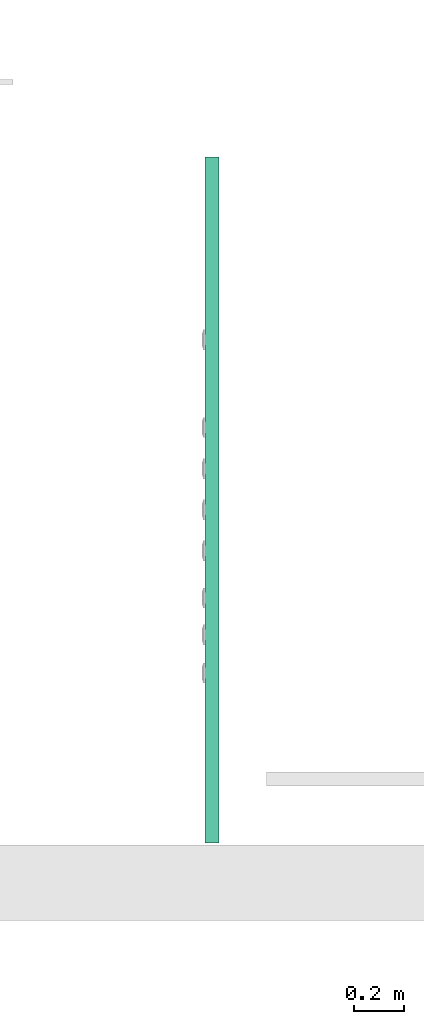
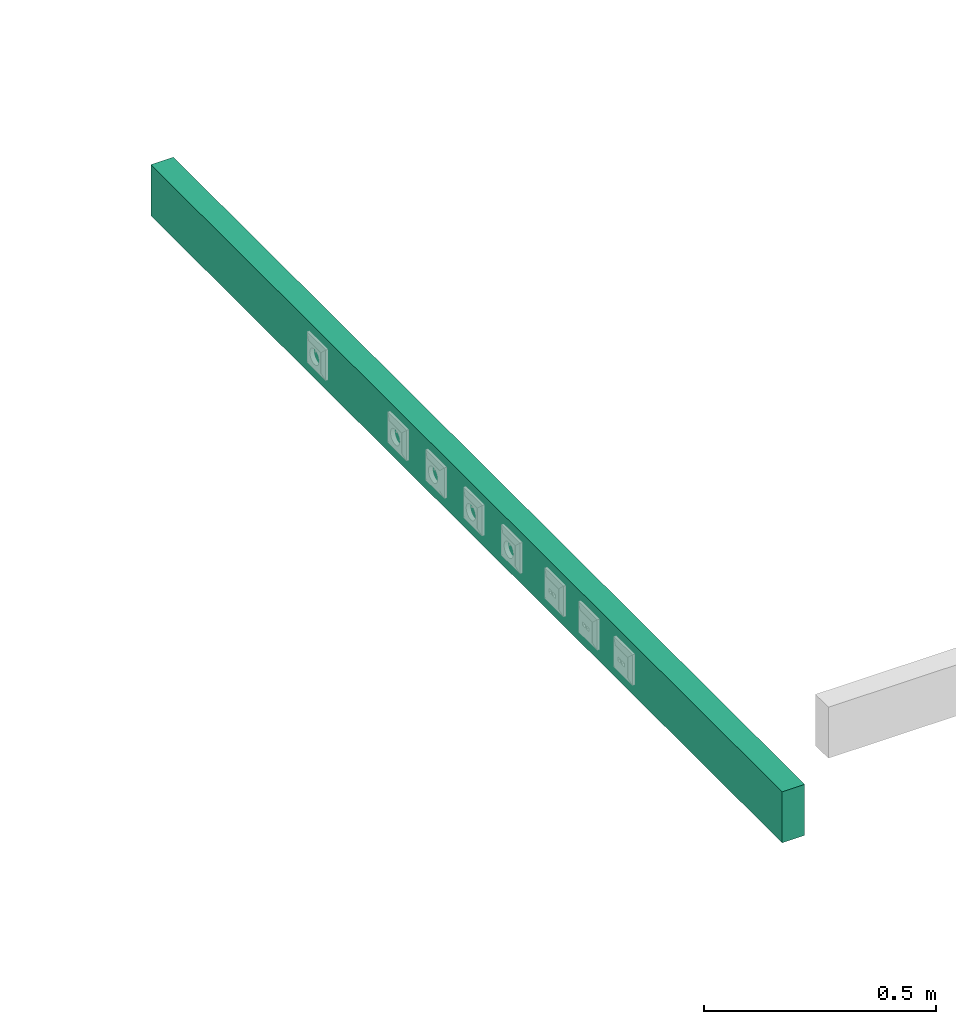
# One storey, part 8 of 166: 1 flow segment.
"""IFC2X3 building model written with IfcOpenShell, lengths in metres."""

from ifc_helpers import new_model, entity, si_unit, converted_unit, derived_unit, direction, frame, origin, origin_2d_with_axis, place, context, subcontext, project, spatial, rectangle, extrude, type_object, element, save


model = new_model("IFC2X3")

# Units and contexts
model_context = context("Model", 3, precision=1e-05, world=origin(), true_north=direction((6.12303176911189e-17, 1.0)))
body_context = subcontext(model_context, "Body", "Model", "MODEL_VIEW")
ifc_project = project(units=[si_unit("LENGTHUNIT", "METRE"), si_unit("AREAUNIT", "SQUARE_METRE"), si_unit("VOLUMEUNIT", "CUBIC_METRE"), converted_unit("PLANEANGLEUNIT", "DEGREE", entity("IfcRatioMeasure", 0.0174532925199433), si_unit("PLANEANGLEUNIT", "RADIAN"), dimensions=[0, 0, 0, 0, 0, 0, 0]), si_unit("MASSUNIT", "GRAM", prefix="KILO"), derived_unit("MASSDENSITYUNIT", [(si_unit("MASSUNIT", "GRAM", prefix="KILO"), 1), (si_unit("LENGTHUNIT", "METRE"), -3)]), si_unit("TIMEUNIT", "SECOND"), si_unit("FREQUENCYUNIT", "HERTZ"), si_unit("THERMODYNAMICTEMPERATUREUNIT", "DEGREE_CELSIUS"), derived_unit("THERMALTRANSMITTANCEUNIT", [(si_unit("MASSUNIT", "GRAM", prefix="KILO"), 1), (si_unit("THERMODYNAMICTEMPERATUREUNIT", "KELVIN"), -1), (si_unit("TIMEUNIT", "SECOND"), -3)]), derived_unit("VOLUMETRICFLOWRATEUNIT", [(si_unit("LENGTHUNIT", "METRE"), 3), (si_unit("TIMEUNIT", "SECOND"), -1)]), si_unit("ELECTRICCURRENTUNIT", "AMPERE"), si_unit("ELECTRICVOLTAGEUNIT", "VOLT"), si_unit("POWERUNIT", "WATT"), si_unit("FORCEUNIT", "NEWTON"), si_unit("ILLUMINANCEUNIT", "LUX"), si_unit("LUMINOUSFLUXUNIT", "LUMEN"), si_unit("LUMINOUSINTENSITYUNIT", "CANDELA"), derived_unit("USERDEFINED", [(si_unit("MASSUNIT", "GRAM", prefix="KILO"), -1), (si_unit("LENGTHUNIT", "METRE"), -2), (si_unit("TIMEUNIT", "SECOND"), 3), (si_unit("LUMINOUSFLUXUNIT", "LUMEN"), 1)]), derived_unit("LINEARVELOCITYUNIT", [(si_unit("LENGTHUNIT", "METRE"), 1), (si_unit("TIMEUNIT", "SECOND"), -1)]), si_unit("PRESSUREUNIT", "PASCAL"), derived_unit("USERDEFINED", [(si_unit("LENGTHUNIT", "METRE"), -2), (si_unit("MASSUNIT", "GRAM", prefix="KILO"), 1), (si_unit("TIMEUNIT", "SECOND"), -2)])], contexts=[model_context])

# Site, building, storey
site_placement = place(None, origin())
site = spatial("IfcSite", under=ifc_project, at=site_placement, Name="Default", CompositionType="ELEMENT")
building_placement = place(site_placement, origin())
building = spatial("IfcBuilding", under=site, at=building_placement, CompositionType="ELEMENT")
storey_placement = place(building_placement, frame((0.0, 0.0, 4.27)))
storey = spatial("IfcBuildingStorey", under=building, at=storey_placement, Name="01", CompositionType="ELEMENT", Elevation=4.27)

# Flow segment
cable_carrier_segment_type = type_object("IfcCableCarrierSegmentType", Name="Cable Tray with Fittings:Goulottes de câbles indéfini_Goulottes de câbles", PredefinedType="NOTDEFINED")
flow_segment_placement = place(storey_placement, origin())
element("IfcFlowSegment", 1, at=flow_segment_placement, inside=storey, type_object=cable_carrier_segment_type, Name="Cable Tray with Fittings:Goulottes de câbles indéfini_Goulottes de câbles", ObjectType="Cable Tray with Fittings:Goulottes de câbles indéfini_Goulottes de câbles", context=body_context, shape_type="SweptSolid", body=[
    extrude(rectangle(XDim=2.71600000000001, YDim=0.0559999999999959, at=origin_2d_with_axis()), frame((37.3947436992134, -186.571589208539, 0.366), z_axis=(0.0, 0.0, 1.0), x_axis=(0.0, 1.0, 0.0)), (0.0, 0.0, 1.0), 0.134),
])

save(model, "model.ifc")
